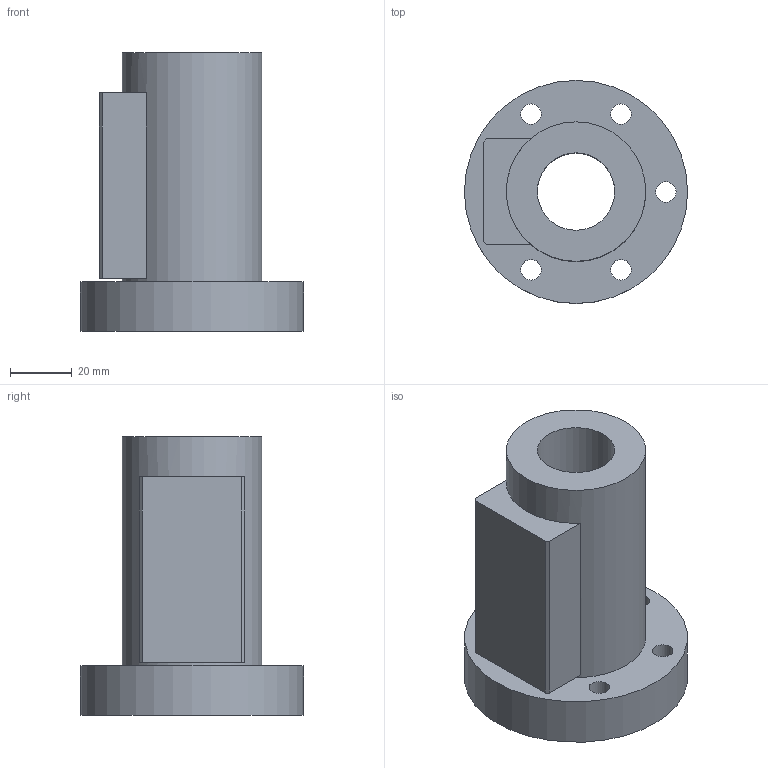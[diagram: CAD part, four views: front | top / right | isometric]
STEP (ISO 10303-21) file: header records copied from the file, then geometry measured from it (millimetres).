
FILE_DESCRIPTION(/* description */ (''),/* implementation_level */ '2;1');
FILE_NAME(/* name */ '25-25A1',/* time_stamp */ '2006-07-31T10:02:03+08:00',/* author */ (''),/* organization */ (''),/* preprocessor_version */ 'ST-DEVELOPER v9',/* originating_system */ 'UGS - NX 4.0',/* authorisation */ '');
FILE_SCHEMA (('CONFIG_CONTROL_DESIGN'));
Length unit declared in the file: millimetre
Products named in the file (1): 25-25A1
Bounding box: 72 x 72 x 90 mm (x, y, z)
Volume: 154033.3 mm3; surface area: 32234.4 mm2
Topology: 1 solids, 1 shells, 28 faces, 61 edges, 42 vertices
Faces by surface type: plane 15, cylinder 13
Full cylindrical faces by diameter (mm): 6.6 x5, 11 x5, 25 x1, 45 x1, 72 x1
Entity records: 794 total; most frequent: DIRECTION 130, CARTESIAN_POINT 111, ORIENTED_EDGE 88, EDGE_LOOP 60, AXIS2_PLACEMENT_3D 57, FACE_BOUND 45, EDGE_CURVE 44, VERTEX_POINT 38
